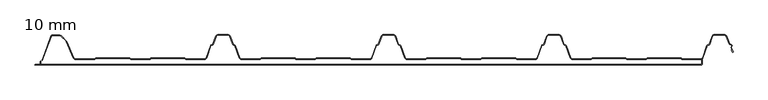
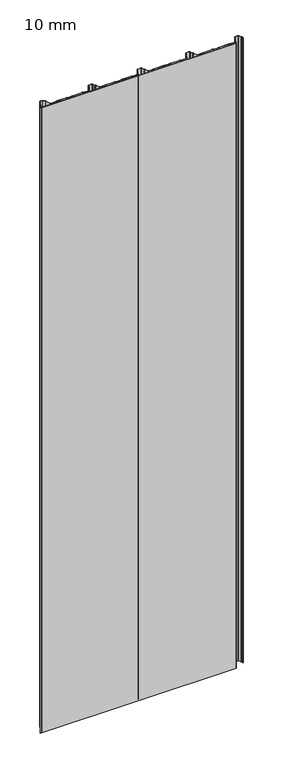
"""IFC4 building model written with IfcOpenShell, lengths in millimetres: plate geometry, HIANSA PANEL - H20.F01.007-PANELES DE CUBIERTA SIN TAPAJUNTA - EASY AGRO 5GR - Panel de Muro Cortina : 10 mm."""

import ifcopenshell
import ifcopenshell.guid

model = None  # the IFC model being written
_history = None  # IfcOwnerHistory: only IFC2X3 demands one
_inside = {}  # id of a spatial element -> (the spatial element, [elements in it])
_under = {}  # id of a project, library or spatial element -> (it, [spatial elements below it])
_declared = {}  # id of a project -> (the project, [libraries it declares])
_typed = {}  # id of a type object -> (the type object, [elements of that type])
_made_of = {}  # id of a material, layer set ... -> (it, [elements and type objects made of it])


def new_model(schema):
    """Start an empty IFC model of exactly this schema.

    Asked for "IFC4X3", IfcOpenShell would pick the latest addendum, in which some entities
    have other attributes; the version numbers below select the first issue.
    IFC2X3 requires an IfcOwnerHistory on every rooted entity: one is made here for all.
    """
    global model, _history
    if schema == "IFC4X3":
        model = ifcopenshell.file(schema_version=(4, 3, 0, 0))
    else:
        model = ifcopenshell.file(schema=schema)
    _inside.clear()
    _under.clear()
    _declared.clear()
    _typed.clear()
    _made_of.clear()
    _history = None
    if model.schema == "IFC2X3":
        org = make("IfcOrganization", Name="unknown")
        user = make(
            "IfcPersonAndOrganization",
            ThePerson=make("IfcPerson", FamilyName="unknown"),
            TheOrganization=org,
        )
        app = make(
            "IfcApplication",
            ApplicationDeveloper=org,
            Version="unknown",
            ApplicationFullName="unknown",
            ApplicationIdentifier="unknown",
        )
        _history = make(
            "IfcOwnerHistory",
            OwningUser=user,
            OwningApplication=app,
            ChangeAction="ADDED",
            CreationDate=0,
        )
    return model


def make(cls, **values):
    """One entity of the class cls with the attributes given. An attribute that is None is left unset."""
    return model.create_entity(
        cls, **{name: value for name, value in values.items() if value is not None}
    )


def rooted(cls, **values):
    """An entity with a GlobalId (a new one), such as an element, a storey or a relation."""
    return make(cls, GlobalId=ifcopenshell.guid.new(), OwnerHistory=_history, **values)


def si_unit(unit_type, name, prefix=None):
    """IfcSIUnit, for example si_unit("LENGTHUNIT", "METRE", prefix="MILLI")."""
    return make("IfcSIUnit", UnitType=unit_type, Prefix=prefix, Name=name)


def assignment(units):
    """IfcUnitAssignment: the units of a project."""
    return None if units is None else make("IfcUnitAssignment", Units=units)


def point(xyz):
    """IfcCartesianPoint."""
    return None if xyz is None else make("IfcCartesianPoint", Coordinates=xyz)


def direction(xyz):
    """IfcDirection."""
    return None if xyz is None else make("IfcDirection", DirectionRatios=xyz)


def frame(location, z_axis=None, x_axis=None):
    """IfcAxis2Placement3D, a coordinate frame: its origin and axes. An axis left out is left unset."""
    return make(
        "IfcAxis2Placement3D",
        Location=point(location),
        Axis=direction(z_axis),
        RefDirection=direction(x_axis),
    )


def frame_2d(location, x_axis=None):
    """IfcAxis2Placement2D, a coordinate frame in the plane: its origin and x axis."""
    return make(
        "IfcAxis2Placement2D", Location=point(location), RefDirection=direction(x_axis)
    )


def origin():
    """The frame at (0, 0, 0) with its axes left unset."""
    return frame((0.0, 0.0, 0.0))


def origin_with_axes():
    """The frame at (0, 0, 0) with the z axis (0, 0, 1) and the x axis (1, 0, 0) written out."""
    return frame((0.0, 0.0, 0.0), z_axis=(0.0, 0.0, 1.0), x_axis=(1.0, 0.0, 0.0))


def place(relative_to, where):
    """IfcLocalPlacement: puts the frame where relative to a parent placement (None: the world)."""
    return make(
        "IfcLocalPlacement", PlacementRelTo=relative_to, RelativePlacement=where
    )


def context(
    kind, dimensions, precision=None, world=None, true_north=None, identifier=None
):
    """IfcGeometricRepresentationContext, for example the 3D "Model" context."""
    return make(
        "IfcGeometricRepresentationContext",
        ContextIdentifier=identifier,
        ContextType=kind,
        CoordinateSpaceDimension=dimensions,
        Precision=precision,
        WorldCoordinateSystem=world,
        TrueNorth=true_north,
    )


def project(units=None, contexts=None):
    """IfcProject with its units and contexts."""
    return rooted(
        "IfcProject",
        Name="project",
        RepresentationContexts=contexts,
        UnitsInContext=assignment(units),
    )


def spatial(cls, under=None, at=None, **own):
    """A site, building, storey or space (cls), placed at a placement, below another one or the project."""
    s = rooted(cls, ObjectPlacement=at, **own)
    if under is not None:
        _under.setdefault(under.id(), (under, []))[1].append(s)
    return s


def polyline(points):
    """IfcPolyline through the points."""
    return make("IfcPolyline", Points=[point(p) for p in points])


def circle_curve(where, radius):
    """IfcCircle in the frame where."""
    return make("IfcCircle", Position=where, Radius=radius)


def trimmed(basis, trim1, trim2, sense, master):
    """IfcTrimmedCurve: the piece of a basis curve between two trims."""
    return make(
        "IfcTrimmedCurve",
        BasisCurve=basis,
        Trim1=trim1,
        Trim2=trim2,
        SenseAgreement=sense,
        MasterRepresentation=master,
    )


def segment(curve, same_sense, transition):
    """IfcCompositeCurveSegment."""
    return make(
        "IfcCompositeCurveSegment",
        Transition=transition,
        SameSense=same_sense,
        ParentCurve=curve,
    )


def composite_curve(segments, self_intersect=None):
    """IfcCompositeCurve: segments joined end to end."""
    return make("IfcCompositeCurve", Segments=segments, SelfIntersect=self_intersect)


def outline(outer, holes=None, kind="AREA"):
    """IfcArbitraryClosedProfileDef: a profile drawn as a closed curve; with holes, ...WithVoids."""
    if holes is None:
        return make("IfcArbitraryClosedProfileDef", ProfileType=kind, OuterCurve=outer)
    return make(
        "IfcArbitraryProfileDefWithVoids",
        ProfileType=kind,
        OuterCurve=outer,
        InnerCurves=holes,
    )


def extrude(swept, where, along, depth):
    """IfcExtrudedAreaSolid: the profile swept, set in the frame where, extruded along a direction by depth."""
    return make(
        "IfcExtrudedAreaSolid",
        SweptArea=swept,
        Position=where,
        ExtrudedDirection=direction(along),
        Depth=depth,
    )


def shape(context_of_items, identifier, shape_type, items):
    """IfcShapeRepresentation: the items that make up one representation, for example the "Body"."""
    return make(
        "IfcShapeRepresentation",
        ContextOfItems=context_of_items,
        RepresentationIdentifier=identifier,
        RepresentationType=shape_type,
        Items=items,
    )


def source(mapping_origin, context_of_items, identifier, shape_type, items):
    """IfcRepresentationMap: a shape defined once, which mapped items show again and again."""
    return make(
        "IfcRepresentationMap",
        MappingOrigin=mapping_origin,
        MappedRepresentation=shape(context_of_items, identifier, shape_type, items),
    )


def transform(
    local_origin,
    x_axis=None,
    y_axis=None,
    z_axis=None,
    scale=None,
    scale2=None,
    scale3=None,
    uniform=True,
):
    """IfcCartesianTransformationOperator3D, or its non-uniform kind. x_axis, y_axis, z_axis: its Axis1, 2, 3."""
    if uniform:
        return make(
            "IfcCartesianTransformationOperator3D",
            Axis1=direction(x_axis),
            Axis2=direction(y_axis),
            LocalOrigin=point(local_origin),
            Scale=scale,
            Axis3=direction(z_axis),
        )
    return make(
        "IfcCartesianTransformationOperator3DnonUniform",
        Axis1=direction(x_axis),
        Axis2=direction(y_axis),
        LocalOrigin=point(local_origin),
        Scale=scale,
        Axis3=direction(z_axis),
        Scale2=scale2,
        Scale3=scale3,
    )


def mapped(mapping_source, mapping_target):
    """IfcMappedItem: shows the shape of a source again, moved by a transform."""
    return make(
        "IfcMappedItem", MappingSource=mapping_source, MappingTarget=mapping_target
    )


def made_of(thing, what):
    """Note that an element or type object is made of a material, layer set ...; save() writes the relation."""
    if what is not None:
        _made_of.setdefault(what.id(), (what, []))[1].append(thing)
    return thing


def element(
    cls,
    number,
    at=None,
    inside=None,
    cuts=None,
    type_object=None,
    material=None,
    context=None,
    identifier="Body",
    shape_type=None,
    held_by="IfcProductDefinitionShape",
    body=None,
    shapes=None,
    **own,
):
    """One element of the class cls, such as IfcWall. Its Tag is "e" and its number.

    at: its placement. inside: the storey or other place that contains it. cuts: it is an
    opening in that element (IfcRelVoidsElement). A single representation is given by context,
    identifier, shape_type and body (its items); several are given by shapes. held_by: the class
    of the entity that holds the representations. save() writes the other relations.
    """
    e = rooted(cls, Tag="e%d" % number, ObjectPlacement=at, **own)
    if body is not None:
        shapes = [shape(context, identifier, shape_type, body)]
    if shapes is not None:
        e.Representation = make(held_by, Representations=shapes)
    if inside is not None:
        _inside.setdefault(inside.id(), (inside, []))[1].append(e)
    if cuts is not None:
        rooted(
            "IfcRelVoidsElement", RelatingBuildingElement=cuts, RelatedOpeningElement=e
        )
    if type_object is not None:
        _typed.setdefault(type_object.id(), (type_object, []))[1].append(e)
    return made_of(e, material)


def aggregate(whole, parts):
    """IfcRelAggregates: a whole, such as a stair, and the parts it consists of."""
    return rooted("IfcRelAggregates", RelatingObject=whole, RelatedObjects=parts)


def save(model, path):
    """Write the relations noted so far, then the file.

    IfcRelAggregates (storeys below a building ...), IfcRelContainedInSpatialStructure (elements
    in a storey), IfcRelDefinesByType, IfcRelAssociatesMaterial and IfcRelDeclares: one each for
    every whole, place, type object, material and project.
    """
    for whole, parts in _under.values():
        aggregate(whole, parts)
    for where, things in _inside.values():
        rooted(
            "IfcRelContainedInSpatialStructure",
            RelatedElements=things,
            RelatingStructure=where,
        )
    for kind, things in _typed.values():
        rooted("IfcRelDefinesByType", RelatedObjects=things, RelatingType=kind)
    for what, things in _made_of.values():
        rooted("IfcRelAssociatesMaterial", RelatedObjects=things, RelatingMaterial=what)
    for by, libraries in _declared.values():
        rooted("IfcRelDeclares", RelatingContext=by, RelatedDefinitions=libraries)
    model.write(path)


def plate_10_mm_16896bcf(model_context):
    return source(origin(), model_context, "Body", "SweptSolid", [
        extrude(outline(polyline([(513.0200154, 6.9139578), (513.5200154, 8.0369762), (513.5200154, 6.0000001), (513.0200154, 5.2859261), (513.0200154, 6.9139578)])), origin_with_axes(), (0.0, 0.0, 1.0), 3390.8509027),
        extrude(outline(polyline([(-486.0046627, 0.4999588), (-486.4799843, 1.3232401), (-486.4799843, 4.6399643), (-486.0046627, 5.4632456), (-486.0046627, 0.4999588)])), origin_with_axes(), (0.0, 0.0, 1.0), 3390.8509027),
        extrude(outline(composite_curve([segment(trimmed(circle_curve(frame_2d((512.5200154, 1.0)), 0.5), [point((512.5200154, 0.5))], [point((513.0200154, 1.0))], True, "CARTESIAN"), True, "CONTINUOUS"), segment(polyline([(513.0200154, 1.0), (513.0200154, 5.285926), (513.5200154, 6.0), (513.5200154, 1.0)]), True, "CONTINUOUS"), segment(trimmed(circle_curve(frame_2d((512.5200154, 1.0)), 1.0), [point((513.5200154, 1.0))], [point((512.5200154, 0.0))], False, "CARTESIAN"), True, "CONTINUOUS"), segment(polyline([(512.5200154, 0.0), (-494.8927647, 0.0), (-494.0267393, 0.5), (512.5200154, 0.5)]), True, "CONTINUOUS")], self_intersect=False)), origin_with_axes(), (0.0, 0.0, 1.0), 3390.8509027),
        extrude(outline(composite_curve([segment(polyline([(-484.137089, 6.794297), (-470.9862026, 42.9260604)]), True, "CONTINUOUS"), segment(trimmed(circle_curve(frame_2d((-468.1671247, 41.9)), 3.0), [point((-470.9862026, 42.9260604))], [point((-468.1671247, 44.9))], False, "CARTESIAN"), True, "CONTINUOUS"), segment(polyline([(-468.1671247, 44.9), (-458.1823567, 44.9)]), True, "CONTINUOUS"), segment(trimmed(circle_curve(frame_2d((-458.1823567, 39.9)), 5.0), [point((-458.1823567, 44.9))], [point((-454.6468228, 43.4355339))], False, "CARTESIAN"), True, "CONTINUOUS"), segment(polyline([(-454.6468228, 43.4355339), (-447.9600419, 36.7487529)]), True, "CONTINUOUS"), segment(trimmed(circle_curve(frame_2d((-451.4955758, 33.213219)), 5.0), [point((-447.9600419, 36.7487529))], [point((-446.9079188, 35.2015359))], False, "CARTESIAN"), True, "CONTINUOUS"), segment(polyline([(-446.9079188, 35.2015359), (-436.1184882, 10.3070099)]), True, "CONTINUOUS"), segment(trimmed(circle_curve(frame_2d((-433.365894, 11.5)), 3.0), [point((-436.1184882, 10.3070099))], [point((-433.365894, 8.5))], True, "CARTESIAN"), True, "CONTINUOUS"), segment(polyline([(-433.365894, 8.5), (-405.5009812, 8.5)]), True, "CONTINUOUS"), segment(trimmed(circle_curve(frame_2d((-405.5009812, 10.5)), 2.0), [point((-405.5009812, 8.5))], [point((-404.2709893, 8.9229394))], True, "CARTESIAN"), True, "CONTINUOUS"), segment(polyline([(-404.2709893, 8.9229394), (-403.6196414, 9.5404749)]), True, "CONTINUOUS"), segment(trimmed(circle_curve(frame_2d((-402.3441269, 8.0)), 2.0), [point((-403.6196414, 9.5404749))], [point((-402.3441269, 10.0))], False, "CARTESIAN"), True, "CONTINUOUS"), segment(polyline([(-402.3441269, 10.0), (-352.3428935, 10.0)]), True, "CONTINUOUS"), segment(trimmed(circle_curve(frame_2d((-352.3428935, 8.0)), 2.0), [point((-352.3428935, 10.0))], [point((-351.067379, 9.5404749))], False, "CARTESIAN"), True, "CONTINUOUS"), segment(polyline([(-351.067379, 9.5404749), (-350.4160311, 8.9229394)]), True, "CONTINUOUS"), segment(trimmed(circle_curve(frame_2d((-349.1860393, 10.5)), 2.0), [point((-350.4160311, 8.9229394))], [point((-349.1860393, 8.5))], True, "CARTESIAN"), True, "CONTINUOUS"), segment(polyline([(-349.1860393, 8.5), (-322.1676478, 8.5)]), True, "CONTINUOUS"), segment(trimmed(circle_curve(frame_2d((-322.1676478, 10.5)), 2.0), [point((-322.1676478, 8.5))], [point((-320.937656, 8.9229394))], True, "CARTESIAN"), True, "CONTINUOUS"), segment(polyline([(-320.937656, 8.9229394), (-320.286308, 9.5404749)]), True, "CONTINUOUS"), segment(trimmed(circle_curve(frame_2d((-319.0107936, 8.0)), 2.0), [point((-320.286308, 9.5404749))], [point((-319.0107936, 10.0))], False, "CARTESIAN"), True, "CONTINUOUS"), segment(polyline([(-319.0107936, 10.0), (-269.0095602, 10.0)]), True, "CONTINUOUS"), segment(trimmed(circle_curve(frame_2d((-269.0095602, 8.0)), 2.0), [point((-269.0095602, 10.0))], [point((-267.7340457, 9.5404749))], False, "CARTESIAN"), True, "CONTINUOUS"), segment(polyline([(-267.7340457, 9.5404749), (-267.0826978, 8.9229394)]), True, "CONTINUOUS"), segment(trimmed(circle_curve(frame_2d((-265.8527059, 10.5)), 2.0), [point((-267.0826978, 8.9229394))], [point((-265.8527059, 8.5))], True, "CARTESIAN"), True, "CONTINUOUS"), segment(polyline([(-265.8527059, 8.5), (-238.8343148, 8.5)]), True, "CONTINUOUS"), segment(trimmed(circle_curve(frame_2d((-238.8343148, 11.5)), 3.0), [point((-238.8343148, 8.5))], [point((-236.015237, 10.4739395))], True, "CARTESIAN"), True, "CONTINUOUS"), segment(polyline([(-236.015237, 10.4739395), (-229.2970082, 28.9321192)]), True, "CONTINUOUS"), segment(trimmed(circle_curve(frame_2d((-227.7935001, 28.3848869)), 1.6), [point((-229.2970082, 28.9321192))], [point((-228.3407323, 29.8883951))], False, "CARTESIAN"), True, "CONTINUOUS"), segment(polyline([(-228.3407323, 29.8883951), (-226.4946685, 30.5603074)]), True, "CONTINUOUS"), segment(trimmed(circle_curve(frame_2d((-226.8366886, 31.5)), 1.0), [point((-226.4946685, 30.5603074))], [point((-225.896996, 31.1579799))], True, "CARTESIAN"), True, "CONTINUOUS"), segment(polyline([(-225.896996, 31.1579799), (-221.5390738, 43.1312725)]), True, "CONTINUOUS"), segment(trimmed(circle_curve(frame_2d((-218.1561804, 41.9)), 3.6), [point((-221.5390738, 43.1312725))], [point((-218.1561804, 45.5))], False, "CARTESIAN"), True, "CONTINUOUS"), segment(polyline([(-218.1561804, 45.5), (-203.1975067, 45.5)]), True, "CONTINUOUS"), segment(trimmed(circle_curve(frame_2d((-203.1975067, 41.9)), 3.6), [point((-203.1975067, 45.5))], [point((-199.8146132, 43.1312725))], False, "CARTESIAN"), True, "CONTINUOUS"), segment(polyline([(-199.8146132, 43.1312725), (-195.4566911, 31.1579799)]), True, "CONTINUOUS"), segment(trimmed(circle_curve(frame_2d((-194.5169985, 31.5)), 1.0), [point((-195.4566911, 31.1579799))], [point((-194.8590186, 30.5603074))], True, "CARTESIAN"), True, "CONTINUOUS"), segment(polyline([(-194.8590186, 30.5603074), (-193.0129548, 29.8883951)]), True, "CONTINUOUS"), segment(trimmed(circle_curve(frame_2d((-193.560187, 28.3848869)), 1.6), [point((-193.0129548, 29.8883951))], [point((-192.0566788, 28.9321192))], False, "CARTESIAN"), True, "CONTINUOUS"), segment(polyline([(-192.0566788, 28.9321192), (-185.3384501, 10.4739395)]), True, "CONTINUOUS"), segment(trimmed(circle_curve(frame_2d((-182.5193722, 11.5)), 3.0), [point((-185.3384501, 10.4739395))], [point((-182.5193722, 8.5))], True, "CARTESIAN"), True, "CONTINUOUS"), segment(polyline([(-182.5193722, 8.5), (-155.5009812, 8.5)]), True, "CONTINUOUS"), segment(trimmed(circle_curve(frame_2d((-155.5009812, 10.5)), 2.0), [point((-155.5009812, 8.5))], [point((-154.2709893, 8.9229394))], True, "CARTESIAN"), True, "CONTINUOUS"), segment(polyline([(-154.2709893, 8.9229394), (-153.6196414, 9.5404749)]), True, "CONTINUOUS"), segment(trimmed(circle_curve(frame_2d((-152.3441269, 8.0)), 2.0), [point((-153.6196414, 9.5404749))], [point((-152.3441269, 10.0))], False, "CARTESIAN"), True, "CONTINUOUS"), segment(polyline([(-152.3441269, 10.0), (-102.3428935, 10.0)]), True, "CONTINUOUS"), segment(trimmed(circle_curve(frame_2d((-102.3428935, 8.0)), 2.0), [point((-102.3428935, 10.0))], [point((-101.067379, 9.5404749))], False, "CARTESIAN"), True, "CONTINUOUS"), segment(polyline([(-101.067379, 9.5404749), (-100.4160311, 8.9229394)]), True, "CONTINUOUS"), segment(trimmed(circle_curve(frame_2d((-99.1860393, 10.5)), 2.0), [point((-100.4160311, 8.9229394))], [point((-99.1860393, 8.5))], True, "CARTESIAN"), True, "CONTINUOUS"), segment(polyline([(-99.1860393, 8.5), (-72.1676478, 8.5)]), True, "CONTINUOUS"), segment(trimmed(circle_curve(frame_2d((-72.1676478, 10.5)), 2.0), [point((-72.1676478, 8.5))], [point((-70.937656, 8.9229394))], True, "CARTESIAN"), True, "CONTINUOUS"), segment(polyline([(-70.937656, 8.9229394), (-70.286308, 9.5404749)]), True, "CONTINUOUS"), segment(trimmed(circle_curve(frame_2d((-69.0107936, 8.0)), 2.0), [point((-70.286308, 9.5404749))], [point((-69.0107936, 10.0))], False, "CARTESIAN"), True, "CONTINUOUS"), segment(polyline([(-69.0107936, 10.0), (-19.0095602, 10.0)]), True, "CONTINUOUS"), segment(trimmed(circle_curve(frame_2d((-19.0095602, 8.0)), 2.0), [point((-19.0095602, 10.0))], [point((-17.7340457, 9.5404749))], False, "CARTESIAN"), True, "CONTINUOUS"), segment(polyline([(-17.7340457, 9.5404749), (-17.0826978, 8.9229394)]), True, "CONTINUOUS"), segment(trimmed(circle_curve(frame_2d((-15.8527059, 10.5)), 2.0), [point((-17.0826978, 8.9229394))], [point((-15.8527059, 8.5))], True, "CARTESIAN"), True, "CONTINUOUS"), segment(polyline([(-15.8527059, 8.5), (11.1656852, 8.5)]), True, "CONTINUOUS"), segment(trimmed(circle_curve(frame_2d((11.1656852, 11.5)), 3.0), [point((11.1656852, 8.5))], [point((13.984763, 10.4739395))], True, "CARTESIAN"), True, "CONTINUOUS"), segment(polyline([(13.984763, 10.4739395), (20.7029918, 28.9321192)]), True, "CONTINUOUS"), segment(trimmed(circle_curve(frame_2d((22.2064999, 28.3848869)), 1.6), [point((20.7029918, 28.9321192))], [point((21.6592677, 29.8883951))], False, "CARTESIAN"), True, "CONTINUOUS"), segment(polyline([(21.6592677, 29.8883951), (23.5053315, 30.5603074)]), True, "CONTINUOUS"), segment(trimmed(circle_curve(frame_2d((23.1633114, 31.5)), 1.0), [point((23.5053315, 30.5603074))], [point((24.103004, 31.1579799))], True, "CARTESIAN"), True, "CONTINUOUS"), segment(polyline([(24.103004, 31.1579799), (28.4609262, 43.1312725)]), True, "CONTINUOUS"), segment(trimmed(circle_curve(frame_2d((31.8438196, 41.9)), 3.6), [point((28.4609262, 43.1312725))], [point((31.8438196, 45.5))], False, "CARTESIAN"), True, "CONTINUOUS"), segment(polyline([(31.8438196, 45.5), (46.8024933, 45.5)]), True, "CONTINUOUS"), segment(trimmed(circle_curve(frame_2d((46.8024933, 41.9)), 3.6), [point((46.8024933, 45.5))], [point((50.1853868, 43.1312725))], False, "CARTESIAN"), True, "CONTINUOUS"), segment(polyline([(50.1853868, 43.1312725), (54.5433089, 31.1579799)]), True, "CONTINUOUS"), segment(trimmed(circle_curve(frame_2d((55.4830015, 31.5)), 1.0), [point((54.5433089, 31.1579799))], [point((55.1409814, 30.5603074))], True, "CARTESIAN"), True, "CONTINUOUS"), segment(polyline([(55.1409814, 30.5603074), (56.9870452, 29.8883951)]), True, "CONTINUOUS"), segment(trimmed(circle_curve(frame_2d((56.439813, 28.3848869)), 1.6), [point((56.9870452, 29.8883951))], [point((57.9433212, 28.9321192))], False, "CARTESIAN"), True, "CONTINUOUS"), segment(polyline([(57.9433212, 28.9321192), (64.6615499, 10.4739395)]), True, "CONTINUOUS"), segment(trimmed(circle_curve(frame_2d((67.4806278, 11.5)), 3.0), [point((64.6615499, 10.4739395))], [point((67.4806278, 8.5))], True, "CARTESIAN"), True, "CONTINUOUS"), segment(polyline([(67.4806278, 8.5), (94.4990188, 8.5)]), True, "CONTINUOUS"), segment(trimmed(circle_curve(frame_2d((94.4990188, 10.5)), 2.0), [point((94.4990188, 8.5))], [point((95.7290107, 8.9229394))], True, "CARTESIAN"), True, "CONTINUOUS"), segment(polyline([(95.7290107, 8.9229394), (96.3803586, 9.5404749)]), True, "CONTINUOUS"), segment(trimmed(circle_curve(frame_2d((97.6558731, 8.0)), 2.0), [point((96.3803586, 9.5404749))], [point((97.6558731, 10.0))], False, "CARTESIAN"), True, "CONTINUOUS"), segment(polyline([(97.6558731, 10.0), (147.6571065, 10.0)]), True, "CONTINUOUS"), segment(trimmed(circle_curve(frame_2d((147.6571065, 8.0)), 2.0), [point((147.6571065, 10.0))], [point((148.932621, 9.5404749))], False, "CARTESIAN"), True, "CONTINUOUS"), segment(polyline([(148.932621, 9.5404749), (149.5839689, 8.9229394)]), True, "CONTINUOUS"), segment(trimmed(circle_curve(frame_2d((150.8139607, 10.5)), 2.0), [point((149.5839689, 8.9229394))], [point((150.8139607, 8.5))], True, "CARTESIAN"), True, "CONTINUOUS"), segment(polyline([(150.8139607, 8.5), (177.8323522, 8.5)]), True, "CONTINUOUS"), segment(trimmed(circle_curve(frame_2d((177.8323522, 10.5)), 2.0), [point((177.8323522, 8.5))], [point((179.062344, 8.9229394))], True, "CARTESIAN"), True, "CONTINUOUS"), segment(polyline([(179.062344, 8.9229394), (179.713692, 9.5404749)]), True, "CONTINUOUS"), segment(trimmed(circle_curve(frame_2d((180.9892064, 8.0)), 2.0), [point((179.713692, 9.5404749))], [point((180.9892064, 10.0))], False, "CARTESIAN"), True, "CONTINUOUS"), segment(polyline([(180.9892064, 10.0), (230.9904398, 10.0)]), True, "CONTINUOUS"), segment(trimmed(circle_curve(frame_2d((230.9904398, 8.0)), 2.0), [point((230.9904398, 10.0))], [point((232.2659543, 9.5404749))], False, "CARTESIAN"), True, "CONTINUOUS"), segment(polyline([(232.2659543, 9.5404749), (232.9173022, 8.9229394)]), True, "CONTINUOUS"), segment(trimmed(circle_curve(frame_2d((234.1472941, 10.5)), 2.0), [point((232.9173022, 8.9229394))], [point((234.1472941, 8.5))], True, "CARTESIAN"), True, "CONTINUOUS"), segment(polyline([(234.1472941, 8.5), (261.1656852, 8.5)]), True, "CONTINUOUS"), segment(trimmed(circle_curve(frame_2d((261.1656852, 11.5)), 3.0), [point((261.1656852, 8.5))], [point((263.984763, 10.4739395))], True, "CARTESIAN"), True, "CONTINUOUS"), segment(polyline([(263.984763, 10.4739395), (270.7029918, 28.9321192)]), True, "CONTINUOUS"), segment(trimmed(circle_curve(frame_2d((272.2064999, 28.3848869)), 1.6), [point((270.7029918, 28.9321192))], [point((271.6592677, 29.8883951))], False, "CARTESIAN"), True, "CONTINUOUS"), segment(polyline([(271.6592677, 29.8883951), (273.5053315, 30.5603074)]), True, "CONTINUOUS"), segment(trimmed(circle_curve(frame_2d((273.1633114, 31.5)), 1.0), [point((273.5053315, 30.5603074))], [point((274.103004, 31.1579799))], True, "CARTESIAN"), True, "CONTINUOUS"), segment(polyline([(274.103004, 31.1579799), (278.4609262, 43.1312725)]), True, "CONTINUOUS"), segment(trimmed(circle_curve(frame_2d((281.8438196, 41.9)), 3.6), [point((278.4609262, 43.1312725))], [point((281.8438196, 45.5))], False, "CARTESIAN"), True, "CONTINUOUS"), segment(polyline([(281.8438196, 45.5), (296.8024933, 45.5)]), True, "CONTINUOUS"), segment(trimmed(circle_curve(frame_2d((296.8024933, 41.9)), 3.6), [point((296.8024933, 45.5))], [point((300.1853868, 43.1312725))], False, "CARTESIAN"), True, "CONTINUOUS"), segment(polyline([(300.1853868, 43.1312725), (304.5433089, 31.1579799)]), True, "CONTINUOUS"), segment(trimmed(circle_curve(frame_2d((305.4830015, 31.5)), 1.0), [point((304.5433089, 31.1579799))], [point((305.1409814, 30.5603074))], True, "CARTESIAN"), True, "CONTINUOUS"), segment(polyline([(305.1409814, 30.5603074), (306.9870452, 29.8883951)]), True, "CONTINUOUS"), segment(trimmed(circle_curve(frame_2d((306.439813, 28.3848869)), 1.6), [point((306.9870452, 29.8883951))], [point((307.9433212, 28.9321192))], False, "CARTESIAN"), True, "CONTINUOUS"), segment(polyline([(307.9433212, 28.9321192), (314.6615499, 10.4739395)]), True, "CONTINUOUS"), segment(trimmed(circle_curve(frame_2d((317.4806278, 11.5)), 3.0), [point((314.6615499, 10.4739395))], [point((317.4806278, 8.5))], True, "CARTESIAN"), True, "CONTINUOUS"), segment(polyline([(317.4806278, 8.5), (344.4990188, 8.5)]), True, "CONTINUOUS"), segment(trimmed(circle_curve(frame_2d((344.4990188, 10.5)), 2.0), [point((344.4990188, 8.5))], [point((345.7290107, 8.9229394))], True, "CARTESIAN"), True, "CONTINUOUS"), segment(polyline([(345.7290107, 8.9229394), (346.3803586, 9.5404749)]), True, "CONTINUOUS"), segment(trimmed(circle_curve(frame_2d((347.6558731, 8.0)), 2.0), [point((346.3803586, 9.5404749))], [point((347.6558731, 10.0))], False, "CARTESIAN"), True, "CONTINUOUS"), segment(polyline([(347.6558731, 10.0), (397.6571065, 10.0)]), True, "CONTINUOUS"), segment(trimmed(circle_curve(frame_2d((397.6571065, 8.0)), 2.0), [point((397.6571065, 10.0))], [point((398.932621, 9.5404749))], False, "CARTESIAN"), True, "CONTINUOUS"), segment(polyline([(398.932621, 9.5404749), (399.5839689, 8.9229394)]), True, "CONTINUOUS"), segment(trimmed(circle_curve(frame_2d((400.8139607, 10.5)), 2.0), [point((399.5839689, 8.9229394))], [point((400.8139607, 8.5))], True, "CARTESIAN"), True, "CONTINUOUS"), segment(polyline([(400.8139607, 8.5), (427.8323522, 8.5)]), True, "CONTINUOUS"), segment(trimmed(circle_curve(frame_2d((427.8323522, 10.5)), 2.0), [point((427.8323522, 8.5))], [point((429.062344, 8.9229394))], True, "CARTESIAN"), True, "CONTINUOUS"), segment(polyline([(429.062344, 8.9229394), (429.713692, 9.5404749)]), True, "CONTINUOUS"), segment(trimmed(circle_curve(frame_2d((430.9892064, 8.0)), 2.0), [point((429.713692, 9.5404749))], [point((430.9892064, 10.0))], False, "CARTESIAN"), True, "CONTINUOUS"), segment(polyline([(430.9892064, 10.0), (480.9904398, 10.0)]), True, "CONTINUOUS"), segment(trimmed(circle_curve(frame_2d((480.9904398, 8.0)), 2.0), [point((480.9904398, 10.0))], [point((482.2659543, 9.5404749))], False, "CARTESIAN"), True, "CONTINUOUS"), segment(polyline([(482.2659543, 9.5404749), (482.9173022, 8.9229394)]), True, "CONTINUOUS"), segment(trimmed(circle_curve(frame_2d((484.1472941, 10.5)), 2.0), [point((482.9173022, 8.9229394))], [point((484.1472941, 8.5))], True, "CARTESIAN"), True, "CONTINUOUS"), segment(polyline([(484.1472941, 8.5), (511.1656852, 8.5)]), True, "CONTINUOUS"), segment(trimmed(circle_curve(frame_2d((511.1656852, 11.5)), 3.0), [point((511.1656852, 8.5))], [point((513.984763, 10.4739395))], True, "CARTESIAN"), True, "CONTINUOUS"), segment(polyline([(513.984763, 10.4739395), (520.7029918, 28.9321192)]), True, "CONTINUOUS"), segment(trimmed(circle_curve(frame_2d((522.2064999, 28.3848869)), 1.6), [point((520.7029918, 28.9321192))], [point((521.6592677, 29.8883951))], False, "CARTESIAN"), True, "CONTINUOUS"), segment(polyline([(521.6592677, 29.8883951), (523.5053315, 30.5603074)]), True, "CONTINUOUS"), segment(trimmed(circle_curve(frame_2d((523.1633114, 31.5)), 1.0), [point((523.5053315, 30.5603074))], [point((524.103004, 31.1579799))], True, "CARTESIAN"), True, "CONTINUOUS"), segment(polyline([(524.103004, 31.1579799), (528.4609262, 43.1312725)]), True, "CONTINUOUS"), segment(trimmed(circle_curve(frame_2d((531.8438196, 41.9)), 3.6), [point((528.4609262, 43.1312725))], [point((531.8438196, 45.5))], False, "CARTESIAN"), True, "CONTINUOUS"), segment(polyline([(531.8438196, 45.5), (546.9192854, 45.5)]), True, "CONTINUOUS"), segment(trimmed(circle_curve(frame_2d((546.9192854, 41.9)), 3.6), [point((546.9192854, 45.5))], [point((550.2444191, 43.2796687))], False, "CARTESIAN"), True, "CONTINUOUS"), segment(polyline([(550.2444191, 43.2796687), (555.167008, 31.4157576), (557.5975103, 30.2847949)]), True, "CONTINUOUS"), segment(trimmed(circle_curve(frame_2d((556.9224975, 28.8341544)), 1.6), [point((557.5975103, 30.2847949))], [point((558.4262226, 28.2875187))], False, "CARTESIAN"), True, "CONTINUOUS"), segment(polyline([(558.4262226, 28.2875187), (557.5103517, 25.7680746), (560.1304895, 19.4532914)]), True, "CONTINUOUS"), segment(trimmed(circle_curve(frame_2d((559.6686653, 19.2616707)), 0.5), [point((560.1304895, 19.4532914))], [point((559.2068412, 19.0700501))], False, "CARTESIAN"), True, "CONTINUOUS"), segment(polyline([(559.2068412, 19.0700501), (557.7298191, 22.6298149), (557.9300937, 23.4517949), (557.1976077, 25.2171566)]), True, "CONTINUOUS"), segment(trimmed(circle_curve(frame_2d((558.5830801, 25.7920185)), 1.5), [point((557.1976077, 25.2171566))], [point((557.1733377, 26.3044895))], False, "CARTESIAN"), True, "CONTINUOUS"), segment(polyline([(557.1733377, 26.3044895), (557.9563085, 28.4583424)]), True, "CONTINUOUS"), segment(trimmed(circle_curve(frame_2d((556.9224975, 28.8341544)), 1.1), [point((557.9563085, 28.4583424))], [point((557.3865688, 29.8314697))], True, "CARTESIAN"), True, "CONTINUOUS"), segment(polyline([(557.3865688, 29.8314697), (555.3087516, 30.7983208)]), True, "CONTINUOUS"), segment(trimmed(circle_curve(frame_2d((555.9415761, 32.1582962)), 1.5), [point((555.3087516, 30.7983208))], [point((554.5561037, 31.5834343))], False, "CARTESIAN"), True, "CONTINUOUS"), segment(polyline([(554.5561037, 31.5834343), (549.782595, 43.088048)]), True, "CONTINUOUS"), segment(trimmed(circle_curve(frame_2d((546.9192854, 41.9)), 3.1), [point((549.782595, 43.088048))], [point((546.9192854, 45.0))], True, "CARTESIAN"), True, "CONTINUOUS"), segment(polyline([(546.9192854, 45.0), (531.8438196, 45.0)]), True, "CONTINUOUS"), segment(trimmed(circle_curve(frame_2d((531.8438196, 41.9)), 3.1), [point((531.8438196, 45.0))], [point((528.9307725, 42.9602624))], True, "CARTESIAN"), True, "CONTINUOUS"), segment(polyline([(528.9307725, 42.9602624), (524.5728503, 30.9869698)]), True, "CONTINUOUS"), segment(trimmed(circle_curve(frame_2d((523.1633114, 31.5)), 1.5), [point((524.5728503, 30.9869698))], [point((523.6763416, 30.0904611))], False, "CARTESIAN"), True, "CONTINUOUS"), segment(polyline([(523.6763416, 30.0904611), (521.8302778, 29.4185488)]), True, "CONTINUOUS"), segment(trimmed(circle_curve(frame_2d((522.2064999, 28.3848869)), 1.1), [point((521.8302778, 29.4185488))], [point((521.1728381, 28.7611091))], True, "CARTESIAN"), True, "CONTINUOUS"), segment(polyline([(521.1728381, 28.7611091), (514.4546093, 10.3029294)]), True, "CONTINUOUS"), segment(trimmed(circle_curve(frame_2d((511.1656852, 11.5)), 3.5), [point((514.4546093, 10.3029294))], [point((511.1656852, 8.0))], False, "CARTESIAN"), True, "CONTINUOUS"), segment(polyline([(511.1656852, 8.0), (484.1472941, 8.0)]), True, "CONTINUOUS"), segment(trimmed(circle_curve(frame_2d((484.1472941, 10.5)), 2.5), [point((484.1472941, 8.0))], [point((482.5898135, 8.54443))], False, "CARTESIAN"), True, "CONTINUOUS"), segment(polyline([(482.5898135, 8.54443), (481.9350123, 9.1652394)]), True, "CONTINUOUS"), segment(trimmed(circle_curve(frame_2d((480.9904398, 8.0)), 1.5), [point((481.9350123, 9.1652394))], [point((480.9904398, 9.5))], True, "CARTESIAN"), True, "CONTINUOUS"), segment(polyline([(480.9904398, 9.5), (430.9892064, 9.5)]), True, "CONTINUOUS"), segment(trimmed(circle_curve(frame_2d((430.9892064, 8.0)), 1.5), [point((430.9892064, 9.5))], [point((430.044634, 9.1652394))], True, "CARTESIAN"), True, "CONTINUOUS"), segment(polyline([(430.044634, 9.1652394), (429.3898328, 8.54443)]), True, "CONTINUOUS"), segment(trimmed(circle_curve(frame_2d((427.8323522, 10.5)), 2.5), [point((429.3898328, 8.54443))], [point((427.8323522, 8.0))], False, "CARTESIAN"), True, "CONTINUOUS"), segment(polyline([(427.8323522, 8.0), (400.8139607, 8.0)]), True, "CONTINUOUS"), segment(trimmed(circle_curve(frame_2d((400.8139607, 10.5)), 2.5), [point((400.8139607, 8.0))], [point((399.2564801, 8.54443))], False, "CARTESIAN"), True, "CONTINUOUS"), segment(polyline([(399.2564801, 8.54443), (398.6016789, 9.1652394)]), True, "CONTINUOUS"), segment(trimmed(circle_curve(frame_2d((397.6571065, 8.0)), 1.5), [point((398.6016789, 9.1652394))], [point((397.6571065, 9.5))], True, "CARTESIAN"), True, "CONTINUOUS"), segment(polyline([(397.6571065, 9.5), (347.6558731, 9.5)]), True, "CONTINUOUS"), segment(trimmed(circle_curve(frame_2d((347.6558731, 8.0)), 1.5), [point((347.6558731, 9.5))], [point((346.7113007, 9.1652394))], True, "CARTESIAN"), True, "CONTINUOUS"), segment(polyline([(346.7113007, 9.1652394), (346.0564995, 8.54443)]), True, "CONTINUOUS"), segment(trimmed(circle_curve(frame_2d((344.4990188, 10.5)), 2.5), [point((346.0564995, 8.54443))], [point((344.4990188, 8.0))], False, "CARTESIAN"), True, "CONTINUOUS"), segment(polyline([(344.4990188, 8.0), (317.4806278, 8.0)]), True, "CONTINUOUS"), segment(trimmed(circle_curve(frame_2d((317.4806278, 11.5)), 3.5), [point((317.4806278, 8.0))], [point((314.1917036, 10.3029294))], False, "CARTESIAN"), True, "CONTINUOUS"), segment(polyline([(314.1917036, 10.3029294), (307.4734749, 28.7611091)]), True, "CONTINUOUS"), segment(trimmed(circle_curve(frame_2d((306.439813, 28.3848869)), 1.1), [point((307.4734749, 28.7611091))], [point((306.8160352, 29.4185488))], True, "CARTESIAN"), True, "CONTINUOUS"), segment(polyline([(306.8160352, 29.4185488), (304.9699713, 30.0904611)]), True, "CONTINUOUS"), segment(trimmed(circle_curve(frame_2d((305.4830015, 31.5)), 1.5), [point((304.9699713, 30.0904611))], [point((304.0734626, 30.9869698))], False, "CARTESIAN"), True, "CONTINUOUS"), segment(polyline([(304.0734626, 30.9869698), (299.7155405, 42.9602624)]), True, "CONTINUOUS"), segment(trimmed(circle_curve(frame_2d((296.8024933, 41.9)), 3.1), [point((299.7155405, 42.9602624))], [point((296.8024933, 45.0))], True, "CARTESIAN"), True, "CONTINUOUS"), segment(polyline([(296.8024933, 45.0), (281.8438196, 45.0)]), True, "CONTINUOUS"), segment(trimmed(circle_curve(frame_2d((281.8438196, 41.9)), 3.1), [point((281.8438196, 45.0))], [point((278.9307725, 42.9602624))], True, "CARTESIAN"), True, "CONTINUOUS"), segment(polyline([(278.9307725, 42.9602624), (274.5728503, 30.9869698)]), True, "CONTINUOUS"), segment(trimmed(circle_curve(frame_2d((273.1633114, 31.5)), 1.5), [point((274.5728503, 30.9869698))], [point((273.6763416, 30.0904611))], False, "CARTESIAN"), True, "CONTINUOUS"), segment(polyline([(273.6763416, 30.0904611), (271.8302778, 29.4185488)]), True, "CONTINUOUS"), segment(trimmed(circle_curve(frame_2d((272.2064999, 28.3848869)), 1.1), [point((271.8302778, 29.4185488))], [point((271.1728381, 28.7611091))], True, "CARTESIAN"), True, "CONTINUOUS"), segment(polyline([(271.1728381, 28.7611091), (264.4546093, 10.3029294)]), True, "CONTINUOUS"), segment(trimmed(circle_curve(frame_2d((261.1656852, 11.5)), 3.5), [point((264.4546093, 10.3029294))], [point((261.1656852, 8.0))], False, "CARTESIAN"), True, "CONTINUOUS"), segment(polyline([(261.1656852, 8.0), (234.1472941, 8.0)]), True, "CONTINUOUS"), segment(trimmed(circle_curve(frame_2d((234.1472941, 10.5)), 2.5), [point((234.1472941, 8.0))], [point((232.5898135, 8.54443))], False, "CARTESIAN"), True, "CONTINUOUS"), segment(polyline([(232.5898135, 8.54443), (231.9350123, 9.1652394)]), True, "CONTINUOUS"), segment(trimmed(circle_curve(frame_2d((230.9904398, 8.0)), 1.5), [point((231.9350123, 9.1652394))], [point((230.9904398, 9.5))], True, "CARTESIAN"), True, "CONTINUOUS"), segment(polyline([(230.9904398, 9.5), (180.9892064, 9.5)]), True, "CONTINUOUS"), segment(trimmed(circle_curve(frame_2d((180.9892064, 8.0)), 1.5), [point((180.9892064, 9.5))], [point((180.044634, 9.1652394))], True, "CARTESIAN"), True, "CONTINUOUS"), segment(polyline([(180.044634, 9.1652394), (179.3898328, 8.54443)]), True, "CONTINUOUS"), segment(trimmed(circle_curve(frame_2d((177.8323522, 10.5)), 2.5), [point((179.3898328, 8.54443))], [point((177.8323522, 8.0))], False, "CARTESIAN"), True, "CONTINUOUS"), segment(polyline([(177.8323522, 8.0), (150.8139607, 8.0)]), True, "CONTINUOUS"), segment(trimmed(circle_curve(frame_2d((150.8139607, 10.5)), 2.5), [point((150.8139607, 8.0))], [point((149.2564801, 8.54443))], False, "CARTESIAN"), True, "CONTINUOUS"), segment(polyline([(149.2564801, 8.54443), (148.6016789, 9.1652394)]), True, "CONTINUOUS"), segment(trimmed(circle_curve(frame_2d((147.6571065, 8.0)), 1.5), [point((148.6016789, 9.1652394))], [point((147.6571065, 9.5))], True, "CARTESIAN"), True, "CONTINUOUS"), segment(polyline([(147.6571065, 9.5), (97.6558731, 9.5)]), True, "CONTINUOUS"), segment(trimmed(circle_curve(frame_2d((97.6558731, 8.0)), 1.5), [point((97.6558731, 9.5))], [point((96.7113007, 9.1652394))], True, "CARTESIAN"), True, "CONTINUOUS"), segment(polyline([(96.7113007, 9.1652394), (96.0564995, 8.54443)]), True, "CONTINUOUS"), segment(trimmed(circle_curve(frame_2d((94.4990188, 10.5)), 2.5), [point((96.0564995, 8.54443))], [point((94.4990188, 8.0))], False, "CARTESIAN"), True, "CONTINUOUS"), segment(polyline([(94.4990188, 8.0), (67.4806278, 8.0)]), True, "CONTINUOUS"), segment(trimmed(circle_curve(frame_2d((67.4806278, 11.5)), 3.5), [point((67.4806278, 8.0))], [point((64.1917036, 10.3029294))], False, "CARTESIAN"), True, "CONTINUOUS"), segment(polyline([(64.1917036, 10.3029294), (57.4734749, 28.7611091)]), True, "CONTINUOUS"), segment(trimmed(circle_curve(frame_2d((56.439813, 28.3848869)), 1.1), [point((57.4734749, 28.7611091))], [point((56.8160352, 29.4185488))], True, "CARTESIAN"), True, "CONTINUOUS"), segment(polyline([(56.8160352, 29.4185488), (54.9699713, 30.0904611)]), True, "CONTINUOUS"), segment(trimmed(circle_curve(frame_2d((55.4830015, 31.5)), 1.5), [point((54.9699713, 30.0904611))], [point((54.0734626, 30.9869698))], False, "CARTESIAN"), True, "CONTINUOUS"), segment(polyline([(54.0734626, 30.9869698), (49.7155405, 42.9602624)]), True, "CONTINUOUS"), segment(trimmed(circle_curve(frame_2d((46.8024933, 41.9)), 3.1), [point((49.7155405, 42.9602624))], [point((46.8024933, 45.0))], True, "CARTESIAN"), True, "CONTINUOUS"), segment(polyline([(46.8024933, 45.0), (31.8438196, 45.0)]), True, "CONTINUOUS"), segment(trimmed(circle_curve(frame_2d((31.8438196, 41.9)), 3.1), [point((31.8438196, 45.0))], [point((28.9307725, 42.9602624))], True, "CARTESIAN"), True, "CONTINUOUS"), segment(polyline([(28.9307725, 42.9602624), (24.5728503, 30.9869698)]), True, "CONTINUOUS"), segment(trimmed(circle_curve(frame_2d((23.1633114, 31.5)), 1.5), [point((24.5728503, 30.9869698))], [point((23.6763416, 30.0904611))], False, "CARTESIAN"), True, "CONTINUOUS"), segment(polyline([(23.6763416, 30.0904611), (21.8302778, 29.4185488)]), True, "CONTINUOUS"), segment(trimmed(circle_curve(frame_2d((22.2064999, 28.3848869)), 1.1), [point((21.8302778, 29.4185488))], [point((21.1728381, 28.7611091))], True, "CARTESIAN"), True, "CONTINUOUS"), segment(polyline([(21.1728381, 28.7611091), (14.4546093, 10.3029294)]), True, "CONTINUOUS"), segment(trimmed(circle_curve(frame_2d((11.1656852, 11.5)), 3.5), [point((14.4546093, 10.3029294))], [point((11.1656852, 8.0))], False, "CARTESIAN"), True, "CONTINUOUS"), segment(polyline([(11.1656852, 8.0), (-15.8527059, 8.0)]), True, "CONTINUOUS"), segment(trimmed(circle_curve(frame_2d((-15.8527059, 10.5)), 2.5), [point((-15.8527059, 8.0))], [point((-17.4101865, 8.54443))], False, "CARTESIAN"), True, "CONTINUOUS"), segment(polyline([(-17.4101865, 8.54443), (-18.0649877, 9.1652394)]), True, "CONTINUOUS"), segment(trimmed(circle_curve(frame_2d((-19.0095602, 8.0)), 1.5), [point((-18.0649877, 9.1652394))], [point((-19.0095602, 9.5))], True, "CARTESIAN"), True, "CONTINUOUS"), segment(polyline([(-19.0095602, 9.5), (-69.0107936, 9.5)]), True, "CONTINUOUS"), segment(trimmed(circle_curve(frame_2d((-69.0107936, 8.0)), 1.5), [point((-69.0107936, 9.5))], [point((-69.955366, 9.1652394))], True, "CARTESIAN"), True, "CONTINUOUS"), segment(polyline([(-69.955366, 9.1652394), (-70.6101672, 8.54443)]), True, "CONTINUOUS"), segment(trimmed(circle_curve(frame_2d((-72.1676478, 10.5)), 2.5), [point((-70.6101672, 8.54443))], [point((-72.1676478, 8.0))], False, "CARTESIAN"), True, "CONTINUOUS"), segment(polyline([(-72.1676478, 8.0), (-99.1860393, 8.0)]), True, "CONTINUOUS"), segment(trimmed(circle_curve(frame_2d((-99.1860393, 10.5)), 2.5), [point((-99.1860393, 8.0))], [point((-100.7435199, 8.54443))], False, "CARTESIAN"), True, "CONTINUOUS"), segment(polyline([(-100.7435199, 8.54443), (-101.3983211, 9.1652394)]), True, "CONTINUOUS"), segment(trimmed(circle_curve(frame_2d((-102.3428935, 8.0)), 1.5), [point((-101.3983211, 9.1652394))], [point((-102.3428935, 9.5))], True, "CARTESIAN"), True, "CONTINUOUS"), segment(polyline([(-102.3428935, 9.5), (-152.3441269, 9.5)]), True, "CONTINUOUS"), segment(trimmed(circle_curve(frame_2d((-152.3441269, 8.0)), 1.5), [point((-152.3441269, 9.5))], [point((-153.2886993, 9.1652394))], True, "CARTESIAN"), True, "CONTINUOUS"), segment(polyline([(-153.2886993, 9.1652394), (-153.9435005, 8.54443)]), True, "CONTINUOUS"), segment(trimmed(circle_curve(frame_2d((-155.5009812, 10.5)), 2.5), [point((-153.9435005, 8.54443))], [point((-155.5009812, 8.0))], False, "CARTESIAN"), True, "CONTINUOUS"), segment(polyline([(-155.5009812, 8.0), (-182.5193722, 8.0)]), True, "CONTINUOUS"), segment(trimmed(circle_curve(frame_2d((-182.5193722, 11.5)), 3.5), [point((-182.5193722, 8.0))], [point((-185.8082964, 10.3029294))], False, "CARTESIAN"), True, "CONTINUOUS"), segment(polyline([(-185.8082964, 10.3029294), (-192.5265251, 28.7611091)]), True, "CONTINUOUS"), segment(trimmed(circle_curve(frame_2d((-193.560187, 28.3848869)), 1.1), [point((-192.5265251, 28.7611091))], [point((-193.1839648, 29.4185488))], True, "CARTESIAN"), True, "CONTINUOUS"), segment(polyline([(-193.1839648, 29.4185488), (-195.0300287, 30.0904611)]), True, "CONTINUOUS"), segment(trimmed(circle_curve(frame_2d((-194.5169985, 31.5)), 1.5), [point((-195.0300287, 30.0904611))], [point((-195.9265374, 30.9869698))], False, "CARTESIAN"), True, "CONTINUOUS"), segment(polyline([(-195.9265374, 30.9869698), (-200.2844595, 42.9602624)]), True, "CONTINUOUS"), segment(trimmed(circle_curve(frame_2d((-203.1975067, 41.9)), 3.1), [point((-200.2844595, 42.9602624))], [point((-203.1975067, 45.0))], True, "CARTESIAN"), True, "CONTINUOUS"), segment(polyline([(-203.1975067, 45.0), (-218.1561804, 45.0)]), True, "CONTINUOUS"), segment(trimmed(circle_curve(frame_2d((-218.1561804, 41.9)), 3.1), [point((-218.1561804, 45.0))], [point((-221.0692275, 42.9602624))], True, "CARTESIAN"), True, "CONTINUOUS"), segment(polyline([(-221.0692275, 42.9602624), (-225.4271497, 30.9869698)]), True, "CONTINUOUS"), segment(trimmed(circle_curve(frame_2d((-226.8366886, 31.5)), 1.5), [point((-225.4271497, 30.9869698))], [point((-226.3236584, 30.0904611))], False, "CARTESIAN"), True, "CONTINUOUS"), segment(polyline([(-226.3236584, 30.0904611), (-228.1697222, 29.4185488)]), True, "CONTINUOUS"), segment(trimmed(circle_curve(frame_2d((-227.7935001, 28.3848869)), 1.1), [point((-228.1697222, 29.4185488))], [point((-228.8271619, 28.7611091))], True, "CARTESIAN"), True, "CONTINUOUS"), segment(polyline([(-228.8271619, 28.7611091), (-235.5453907, 10.3029294)]), True, "CONTINUOUS"), segment(trimmed(circle_curve(frame_2d((-238.8343148, 11.5)), 3.5), [point((-235.5453907, 10.3029294))], [point((-238.8343148, 8.0))], False, "CARTESIAN"), True, "CONTINUOUS"), segment(polyline([(-238.8343148, 8.0), (-265.8527059, 8.0)]), True, "CONTINUOUS"), segment(trimmed(circle_curve(frame_2d((-265.8527059, 10.5)), 2.5), [point((-265.8527059, 8.0))], [point((-267.4101865, 8.54443))], False, "CARTESIAN"), True, "CONTINUOUS"), segment(polyline([(-267.4101865, 8.54443), (-268.0649877, 9.1652394)]), True, "CONTINUOUS"), segment(trimmed(circle_curve(frame_2d((-269.0095602, 8.0)), 1.5), [point((-268.0649877, 9.1652394))], [point((-269.0095602, 9.5))], True, "CARTESIAN"), True, "CONTINUOUS"), segment(polyline([(-269.0095602, 9.5), (-319.0107936, 9.5)]), True, "CONTINUOUS"), segment(trimmed(circle_curve(frame_2d((-319.0107936, 8.0)), 1.5), [point((-319.0107936, 9.5))], [point((-319.955366, 9.1652394))], True, "CARTESIAN"), True, "CONTINUOUS"), segment(polyline([(-319.955366, 9.1652394), (-320.6101672, 8.54443)]), True, "CONTINUOUS"), segment(trimmed(circle_curve(frame_2d((-322.1676478, 10.5)), 2.5), [point((-320.6101672, 8.54443))], [point((-322.1676478, 8.0))], False, "CARTESIAN"), True, "CONTINUOUS"), segment(polyline([(-322.1676478, 8.0), (-349.1860393, 8.0)]), True, "CONTINUOUS"), segment(trimmed(circle_curve(frame_2d((-349.1860393, 10.5)), 2.5), [point((-349.1860393, 8.0))], [point((-350.7435199, 8.54443))], False, "CARTESIAN"), True, "CONTINUOUS"), segment(polyline([(-350.7435199, 8.54443), (-351.3983211, 9.1652394)]), True, "CONTINUOUS"), segment(trimmed(circle_curve(frame_2d((-352.3428935, 8.0)), 1.5), [point((-351.3983211, 9.1652394))], [point((-352.3428935, 9.5))], True, "CARTESIAN"), True, "CONTINUOUS"), segment(polyline([(-352.3428935, 9.5), (-402.3441269, 9.5)]), True, "CONTINUOUS"), segment(trimmed(circle_curve(frame_2d((-402.3441269, 8.0)), 1.5), [point((-402.3441269, 9.5))], [point((-403.2886993, 9.1652394))], True, "CARTESIAN"), True, "CONTINUOUS"), segment(polyline([(-403.2886993, 9.1652394), (-403.9435005, 8.54443)]), True, "CONTINUOUS"), segment(trimmed(circle_curve(frame_2d((-405.5009812, 10.5)), 2.5), [point((-403.9435005, 8.54443))], [point((-405.5009812, 8.0))], False, "CARTESIAN"), True, "CONTINUOUS"), segment(polyline([(-405.5009812, 8.0), (-433.365894, 8.0)]), True, "CONTINUOUS"), segment(trimmed(circle_curve(frame_2d((-433.365894, 11.5)), 3.5), [point((-433.365894, 8.0))], [point((-436.5772539, 10.1081782))], False, "CARTESIAN"), True, "CONTINUOUS"), segment(polyline([(-436.5772539, 10.1081782), (-447.3666845, 35.0027042)]), True, "CONTINUOUS"), segment(trimmed(circle_curve(frame_2d((-451.4955758, 33.213219)), 4.5), [point((-447.3666845, 35.0027042))], [point((-448.3135953, 36.3951995))], True, "CARTESIAN"), True, "CONTINUOUS"), segment(polyline([(-448.3135953, 36.3951995), (-455.0003762, 43.0819805)]), True, "CONTINUOUS"), segment(trimmed(circle_curve(frame_2d((-458.1823567, 39.9)), 4.5), [point((-455.0003762, 43.0819805))], [point((-458.1823567, 44.4))], True, "CARTESIAN"), True, "CONTINUOUS"), segment(polyline([(-458.1823567, 44.4), (-468.1671247, 44.4)]), True, "CONTINUOUS"), segment(trimmed(circle_curve(frame_2d((-468.1671247, 41.9)), 2.5), [point((-468.1671247, 44.4))], [point((-470.5163563, 42.7550504))], True, "CARTESIAN"), True, "CONTINUOUS"), segment(polyline([(-470.5163563, 42.7550504), (-483.4445026, 7.2352601), (-484.137089, 6.794297)]), True, "CONTINUOUS")], self_intersect=False)), origin_with_axes(), (0.0, 0.0, 1.0), 3390.8509027),
    ])


if __name__ == "__main__":
    model = new_model("IFC4")
    model_context = context("Model", 3, world=origin())
    ifc_project = project(units=[si_unit("LENGTHUNIT", "METRE", prefix="MILLI")], contexts=[model_context])
    site = spatial("IfcSite", under=ifc_project)
    building = spatial("IfcBuilding", under=site)
    placement = place(None, origin())
    plate_10_mm_shape = plate_10_mm_16896bcf(model_context)
    element("IfcPlate", 1, ObjectType="HIANSA PANEL - H20.F01.007-PANELES DE CUBIERTA SIN TAPAJUNTA - EASY AGRO 5GR - Panel de Muro Cortina : 10 mm", at=placement, inside=building, context=model_context, shape_type="MappedRepresentation", body=[
        mapped(plate_10_mm_shape, transform((0.0, 0.0, 0.0), x_axis=(1.0, 0.0, 0.0), y_axis=(0.0, 1.0, 0.0), z_axis=(0.0, 0.0, 1.0))),
    ])
    save(model, "model.ifc")
